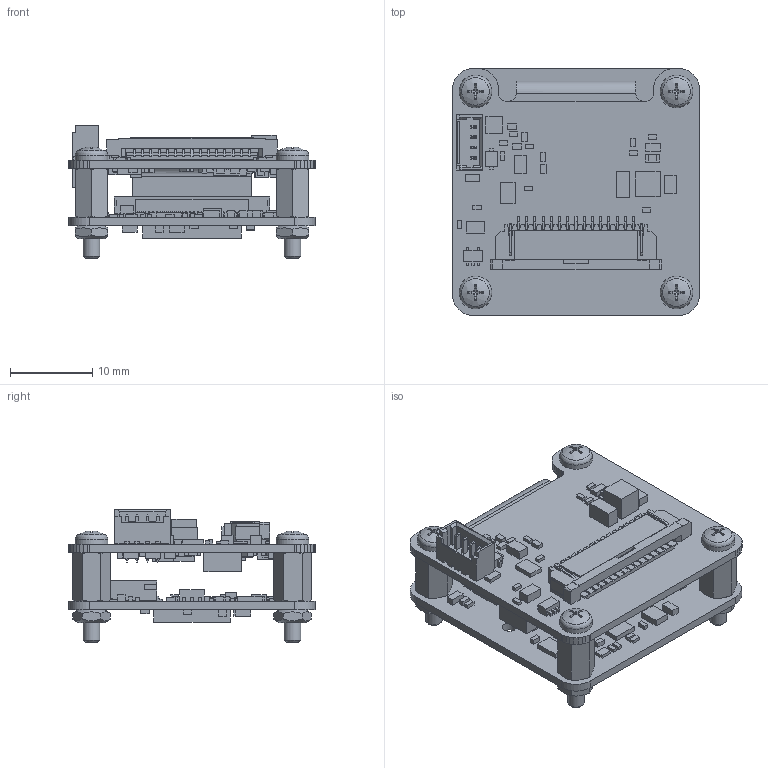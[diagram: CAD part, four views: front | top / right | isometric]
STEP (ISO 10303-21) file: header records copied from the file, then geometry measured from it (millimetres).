
FILE_DESCRIPTION(/* description */ ('289-20-1-06-00'),/* implementation_level */ '2;1');
FILE_NAME(/* name */ 'D:\HiDrive\1_Konstruktion\1_KUNDEN\TIS\289-20_MIPI-Dokumentation\KundenStepModell (KSM)\289-20-1_MIPI-AX-Modul (Kombi_CSI2-Sensorb)\KSM_289-20-1-06-00_AX-R120_IMX415-R110.stp',/* time_stamp */ '2021-08-15T21:14:07+02:00',/* author */ ('Westermann'),/* organization */ ('TIS, Bremen-Germany'),/* preprocessor_version */ 'ST-DEVELOPER v18.1',/* originating_system */ 'Autodesk Inventor 2021',/* authorisation */ '');
FILE_SCHEMA (('AUTOMOTIVE_DESIGN { 1 0 10303 214 3 1 1 }'));
Products named in the file (6): 289-20-1-06-00_AX-R120_IMX415-R110; ISO 4032 - M2; ISO 7045 - M2 x 4 - 4.8 - H; IMX415_MIPI_HB_R1-10; TISMIPI_JetsonNano_Adapter_folded_R1-20; Distanzbolzen-IA-M2x6_0100018_SIBALCO
Assembly tree (14 placements, depth 2):
  289-20-1-06-00_AX-R120_IMX415-R110
    ISO 4032 - M2  x4
    ISO 7045 - M2 x 4 - 4.8 - H  x4
    IMX415_MIPI_HB_R1-10
    TISMIPI_JetsonNano_Adapter_folded_R1-20
    Distanzbolzen-IA-M2x6_0100018_SIBALCO  x4
Bounding box: 30.1 x 30.1 x 16.21 mm (x, y, z)
Volume: 3125.2 mm3; surface area: 7285.3 mm2
Topology: 17 solids, 17 shells, 3604 faces, 10023 edges, 6505 vertices
Faces by surface type: plane 3209, cylinder 239, cone 124, torus 28, sphere 4
Full cylindrical faces by diameter (mm): 0.5 x5, 1.4 x4, 1.567 x8, 1.7 x2, 1.783 x4, 2 x8, 2.1 x8
Entity records: 111145 total; most frequent: CARTESIAN_POINT 19342, ORIENTED_EDGE 19010, DIRECTION 16765, EDGE_CURVE 9505, LINE 8941, VECTOR 8941, VERTEX_POINT 6181, AXIS2_PLACEMENT_3D 3912
